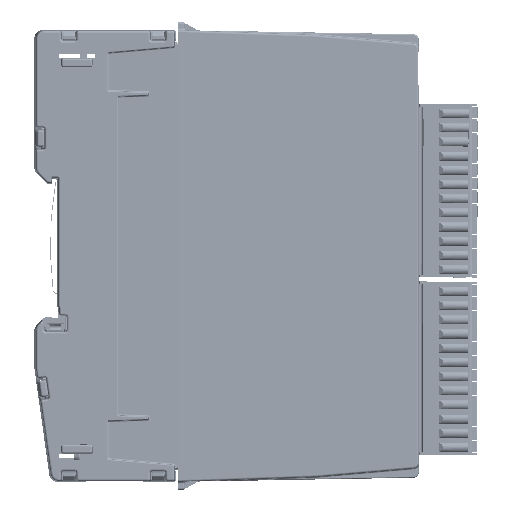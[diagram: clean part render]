
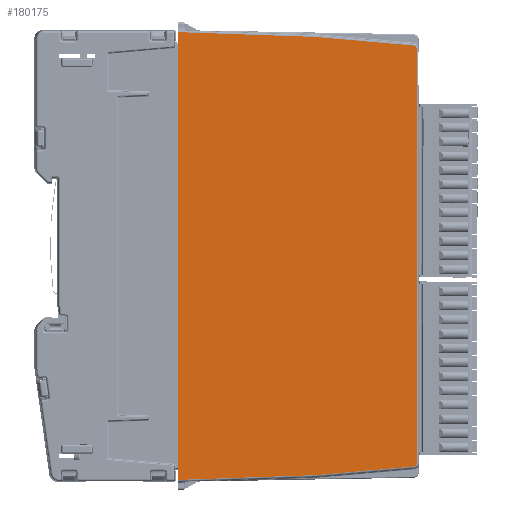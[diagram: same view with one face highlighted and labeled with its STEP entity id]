
A CAD part, left-side view. The second image highlights one B-rep face of the part: STEP entity #180175.
In plain terms, the highlighted planar face has unit normal (-1, -0.018, 0).
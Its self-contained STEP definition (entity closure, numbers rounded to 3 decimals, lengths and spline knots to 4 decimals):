
#2352=ELLIPSE('',#193428,0.0315,0.0315);
#2353=ELLIPSE('',#193429,0.0315,0.0315);
#10017=PLANE('',#193427);
#18105=FACE_OUTER_BOUND('',#28076,.T.);
#28076=EDGE_LOOP('',(#147282,#147283,#147284,#147285,#147286,#147287,#147288,
#147289,#147290,#147291));
#49916=LINE('',#298933,#67698);
#49917=LINE('',#298935,#67699);
#49918=LINE('',#298937,#67700);
#49919=LINE('',#298939,#67701);
#49920=LINE('',#298941,#67702);
#49921=LINE('',#298945,#67703);
#49922=LINE('',#298949,#67704);
#49923=LINE('',#298950,#67705);
#67698=VECTOR('',#229914,39.3701);
#67699=VECTOR('',#229915,39.3701);
#67700=VECTOR('',#229916,39.3701);
#67701=VECTOR('',#229917,39.3701);
#67702=VECTOR('',#229918,39.3701);
#67703=VECTOR('',#229921,39.3701);
#67704=VECTOR('',#229924,39.3701);
#67705=VECTOR('',#229925,39.3701);
#84134=VERTEX_POINT('',#298931);
#84135=VERTEX_POINT('',#298932);
#84136=VERTEX_POINT('',#298934);
#84137=VERTEX_POINT('',#298936);
#84138=VERTEX_POINT('',#298938);
#84139=VERTEX_POINT('',#298940);
#84140=VERTEX_POINT('',#298942);
#84141=VERTEX_POINT('',#298944);
#84142=VERTEX_POINT('',#298946);
#84143=VERTEX_POINT('',#298948);
#106116=EDGE_CURVE('',#84134,#84135,#49916,.T.);
#106117=EDGE_CURVE('',#84136,#84135,#49917,.T.);
#106118=EDGE_CURVE('',#84136,#84137,#49918,.T.);
#106119=EDGE_CURVE('',#84137,#84138,#49919,.T.);
#106120=EDGE_CURVE('',#84138,#84139,#49920,.T.);
#106121=EDGE_CURVE('',#84139,#84140,#2352,.T.);
#106122=EDGE_CURVE('',#84140,#84141,#49921,.T.);
#106123=EDGE_CURVE('',#84141,#84142,#2353,.T.);
#106124=EDGE_CURVE('',#84142,#84143,#49922,.T.);
#106125=EDGE_CURVE('',#84143,#84134,#49923,.T.);
#147282=ORIENTED_EDGE('',*,*,#106116,.T.);
#147283=ORIENTED_EDGE('',*,*,#106117,.F.);
#147284=ORIENTED_EDGE('',*,*,#106118,.T.);
#147285=ORIENTED_EDGE('',*,*,#106119,.T.);
#147286=ORIENTED_EDGE('',*,*,#106120,.T.);
#147287=ORIENTED_EDGE('',*,*,#106121,.T.);
#147288=ORIENTED_EDGE('',*,*,#106122,.T.);
#147289=ORIENTED_EDGE('',*,*,#106123,.T.);
#147290=ORIENTED_EDGE('',*,*,#106124,.T.);
#147291=ORIENTED_EDGE('',*,*,#106125,.T.);
#180175=ADVANCED_FACE('',(#18105),#10017,.T.);
#193427=AXIS2_PLACEMENT_3D('',#298930,#229912,#229913);
#193428=AXIS2_PLACEMENT_3D('',#298943,#229919,#229920);
#193429=AXIS2_PLACEMENT_3D('',#298947,#229922,#229923);
#229912=DIRECTION('center_axis',(-1.,-0.017,
0.));
#229913=DIRECTION('ref_axis',(-0.017,1.,0.));
#229914=DIRECTION('',(0.,0.,-1.));
#229915=DIRECTION('',(0.,0.,1.));
#229916=DIRECTION('',(0.,0.,-1.));
#229917=DIRECTION('',(0.017,-0.999,0.035));
#229918=DIRECTION('',(0.017,-0.996,0.087));
#229919=DIRECTION('center_axis',(-1.,-0.017,
0.));
#229920=DIRECTION('ref_axis',(0.017,-1.,0.));
#229921=DIRECTION('',(0.,0.,1.));
#229922=DIRECTION('center_axis',(-1.,-0.017,
0.));
#229923=DIRECTION('ref_axis',(0.017,-1.,0.));
#229924=DIRECTION('',(-0.017,0.996,0.087));
#229925=DIRECTION('',(-0.017,0.999,0.035));
#298930=CARTESIAN_POINT('Origin',(-0.0296,-0.489,
-2.0669));
#298931=CARTESIAN_POINT('',(-0.0227,-0.8827,0.1083));
#298932=CARTESIAN_POINT('',(-0.0227,-0.8827,-0.0312));
#298933=CARTESIAN_POINT('',(-0.0227,-0.8827,0.128));
#298934=CARTESIAN_POINT('',(-0.0227,-0.8827,-4.1027));
#298935=CARTESIAN_POINT('',(-0.0227,-0.8827,-7.5932));
#298936=CARTESIAN_POINT('',(-0.0227,-0.8827,-4.2421));
#298937=CARTESIAN_POINT('',(-0.0227,-0.8827,0.128));
#298938=CARTESIAN_POINT('',(0.0007,-2.2205,-4.1954));
#298939=CARTESIAN_POINT('',(-0.0282,-0.5654,-4.2532));
#298940=CARTESIAN_POINT('',(0.0174,-3.1772,-4.1117));
#298941=CARTESIAN_POINT('',(-0.0261,-0.6869,-4.3296));
#298942=CARTESIAN_POINT('',(0.0179,-3.2059,-4.0803));
#298943=CARTESIAN_POINT('Origin',(0.0173,-3.1744,
-4.0803));
#298944=CARTESIAN_POINT('',(0.0179,-3.2059,-0.0535));
#298945=CARTESIAN_POINT('',(0.0179,-3.2059,-0.0535));
#298946=CARTESIAN_POINT('',(0.0174,-3.1772,-0.0221));
#298947=CARTESIAN_POINT('Origin',(0.0173,-3.1744,
-0.0535));
#298948=CARTESIAN_POINT('',(0.0007,-2.2205,0.0616));
#298949=CARTESIAN_POINT('',(-0.0261,-0.6869,0.1957));
#298950=CARTESIAN_POINT('',(-0.0282,-0.5654,0.1194));
